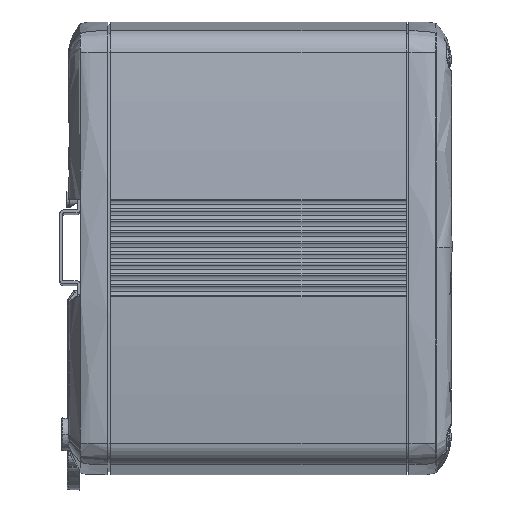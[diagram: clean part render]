
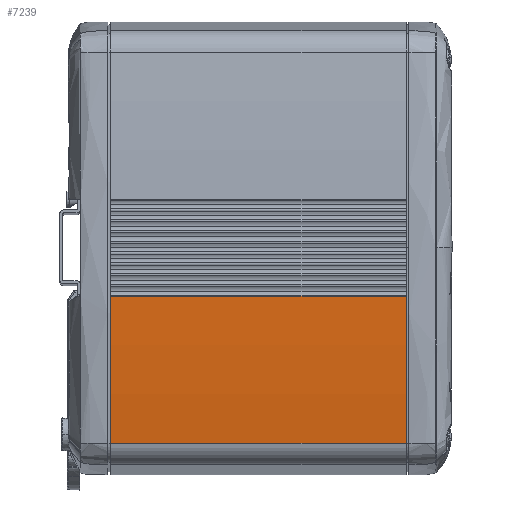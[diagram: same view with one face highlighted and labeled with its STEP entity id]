
A CAD part, top view. The second image highlights one B-rep face of the part: STEP entity #7239.
In plain terms, the highlighted cylindrical face has radius 563.63 mm (diameter 1127.26 mm), a partial arc.
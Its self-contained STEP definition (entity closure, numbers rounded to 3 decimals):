
#744 = DIRECTION ( 'NONE',  ( -1., 0., 0. ) ) ;
#2835 = CARTESIAN_POINT ( 'NONE',  ( 109.951, -71.468, -108. ) ) ;
#3340 = LINE ( 'NONE', #32105, #20627 ) ;
#7239 = ADVANCED_FACE ( 'NONE', ( #8266 ), #65248, .T. ) ;
#7324 = EDGE_CURVE ( 'NONE', #12207, #80032, #73687, .T. ) ;
#8266 = FACE_OUTER_BOUND ( 'NONE', #35624, .T. ) ;
#11261 = EDGE_CURVE ( 'NONE', #80032, #87159, #38185, .T. ) ;
#12207 = VERTEX_POINT ( 'NONE', #31692 ) ;
#19939 = AXIS2_PLACEMENT_3D ( 'NONE', #46609, #67325, #46143 ) ;
#20627 = VECTOR ( 'NONE', #60813, 1000. ) ;
#23073 = ORIENTED_EDGE ( 'NONE', *, *, #7324, .F. ) ;
#23353 = DIRECTION ( 'NONE',  ( -1., 0., 0. ) ) ;
#31692 = CARTESIAN_POINT ( 'NONE',  ( 114.222, -17.704, -108. ) ) ;
#32105 = CARTESIAN_POINT ( 'NONE',  ( 114.222, -17.704, -108. ) ) ;
#32928 = AXIS2_PLACEMENT_3D ( 'NONE', #66174, #36547, #23353 ) ;
#35624 = EDGE_LOOP ( 'NONE', ( #77544, #43125, #60111, #23073 ) ) ;
#36547 = DIRECTION ( 'NONE',  ( 0., 0., -1. ) ) ;
#38185 = LINE ( 'NONE', #2835, #40114 ) ;
#40114 = VECTOR ( 'NONE', #60298, 1000. ) ;
#43125 = ORIENTED_EDGE ( 'NONE', *, *, #79929, .T. ) ;
#46143 = DIRECTION ( 'NONE',  ( -1., 0., 0. ) ) ;
#46609 = CARTESIAN_POINT ( 'NONE',  ( -449.13, 0., 0. ) ) ;
#52585 = EDGE_CURVE ( 'NONE', #12207, #74703, #3340, .T. ) ;
#60111 = ORIENTED_EDGE ( 'NONE', *, *, #11261, .F. ) ;
#60298 = DIRECTION ( 'NONE',  ( 0., 0., 1. ) ) ;
#60540 = CIRCLE ( 'NONE', #19939, 563.63 ) ;
#60813 = DIRECTION ( 'NONE',  ( 0., 0., 1. ) ) ;
#61673 = AXIS2_PLACEMENT_3D ( 'NONE', #86901, #66639, #744 ) ;
#65248 = CYLINDRICAL_SURFACE ( 'NONE', #61673, 563.63 ) ;
#66174 = CARTESIAN_POINT ( 'NONE',  ( -449.13, 0., -108. ) ) ;
#66639 = DIRECTION ( 'NONE',  ( 0., 0., 1. ) ) ;
#67325 = DIRECTION ( 'NONE',  ( 0., 0., -1. ) ) ;
#72087 = CARTESIAN_POINT ( 'NONE',  ( 114.222, -17.704, 0. ) ) ;
#73687 = CIRCLE ( 'NONE', #32928, 563.63 ) ;
#74703 = VERTEX_POINT ( 'NONE', #72087 ) ;
#77544 = ORIENTED_EDGE ( 'NONE', *, *, #52585, .T. ) ;
#79929 = EDGE_CURVE ( 'NONE', #74703, #87159, #60540, .T. ) ;
#80032 = VERTEX_POINT ( 'NONE', #90354 ) ;
#81200 = CARTESIAN_POINT ( 'NONE',  ( 109.951, -71.468, 0. ) ) ;
#86901 = CARTESIAN_POINT ( 'NONE',  ( -449.13, 0., -108. ) ) ;
#87159 = VERTEX_POINT ( 'NONE', #81200 ) ;
#90354 = CARTESIAN_POINT ( 'NONE',  ( 109.951, -71.468, -108. ) ) ;
